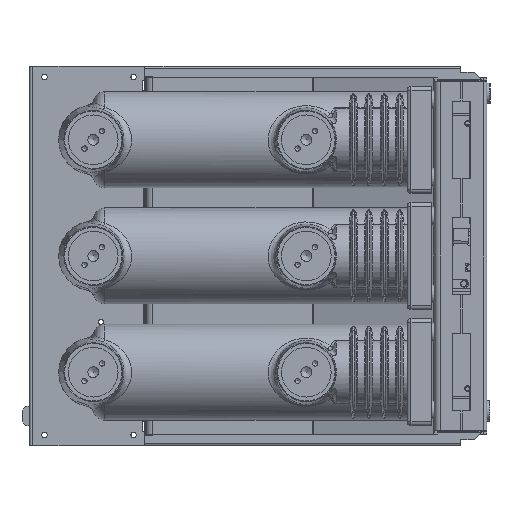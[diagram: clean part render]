
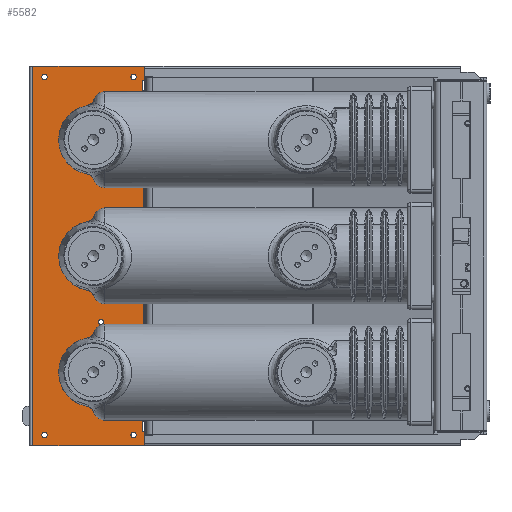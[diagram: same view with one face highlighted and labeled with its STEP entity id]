
A CAD part, left-side view. The second image highlights one B-rep face of the part: STEP entity #5582.
In plain terms, the highlighted planar face has unit normal (-1, 0, 0).
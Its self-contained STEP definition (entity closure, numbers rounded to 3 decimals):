
#5582=ADVANCED_FACE('',(#19433,#19435,#19437,#19439,#19441,#19443),#19445,.T.);
#19433=FACE_BOUND('',#19434,.T.);
#19434=EDGE_LOOP('',(#37318,#37319,#37320,#37321,#37322,#37323,#37324,#37325,#37326,
#37327,#37328,#37329));
#19435=FACE_BOUND('',#19436,.T.);
#19436=EDGE_LOOP('',(#37330));
#19437=FACE_BOUND('',#19438,.T.);
#19438=EDGE_LOOP('',(#37331));
#19439=FACE_BOUND('',#19440,.T.);
#19440=EDGE_LOOP('',(#37332));
#19441=FACE_BOUND('',#19442,.T.);
#19442=EDGE_LOOP('',(#37333));
#19443=FACE_BOUND('',#19444,.T.);
#19444=EDGE_LOOP('',(#37334));
#19445=PLANE('',#19446);
#19446=AXIS2_PLACEMENT_3D('',#19447,#19448,#19449);
#19447=CARTESIAN_POINT('',(86.781,222.749,-245.));
#19448=DIRECTION('',(-1.,0.,0.));
#19449=DIRECTION('',(0.,0.,1.));
#37318=ORIENTED_EDGE('',*,*,#43031,.T.);
#37319=ORIENTED_EDGE('',*,*,#43030,.F.);
#37320=ORIENTED_EDGE('',*,*,#43042,.T.);
#37321=ORIENTED_EDGE('',*,*,#43037,.T.);
#37322=ORIENTED_EDGE('',*,*,#43269,.T.);
#37323=ORIENTED_EDGE('',*,*,#43270,.T.);
#37324=ORIENTED_EDGE('',*,*,#43271,.T.);
#37325=ORIENTED_EDGE('',*,*,#43272,.F.);
#37326=ORIENTED_EDGE('',*,*,#43273,.T.);
#37327=ORIENTED_EDGE('',*,*,#43274,.T.);
#37328=ORIENTED_EDGE('',*,*,#43275,.T.);
#37329=ORIENTED_EDGE('',*,*,#43043,.T.);
#37330=ORIENTED_EDGE('',*,*,#43276,.F.);
#37331=ORIENTED_EDGE('',*,*,#43277,.F.);
#37332=ORIENTED_EDGE('',*,*,#43278,.F.);
#37333=ORIENTED_EDGE('',*,*,#43279,.F.);
#37334=ORIENTED_EDGE('',*,*,#43060,.F.);
#43030=EDGE_CURVE('',#47405,#47385,#47762,.T.);
#43031=EDGE_CURVE('',#47763,#47385,#47764,.T.);
#43037=EDGE_CURVE('',#47771,#47772,#47773,.T.);
#43042=EDGE_CURVE('',#47405,#47771,#47780,.T.);
#43043=EDGE_CURVE('',#47781,#47763,#47782,.T.);
#43060=EDGE_CURVE('',#47811,#47811,#47812,.T.);
#43269=EDGE_CURVE('',#47772,#48174,#48175,.T.);
#43270=EDGE_CURVE('',#48174,#48176,#48177,.T.);
#43271=EDGE_CURVE('',#48176,#48178,#48179,.T.);
#43272=EDGE_CURVE('',#48180,#48178,#48181,.T.);
#43273=EDGE_CURVE('',#48180,#48182,#48183,.T.);
#43274=EDGE_CURVE('',#48182,#48184,#48185,.T.);
#43275=EDGE_CURVE('',#48184,#47781,#48186,.T.);
#43276=EDGE_CURVE('',#48187,#48187,#48188,.T.);
#43277=EDGE_CURVE('',#48189,#48189,#48190,.T.);
#43278=EDGE_CURVE('',#48191,#48191,#48192,.T.);
#43279=EDGE_CURVE('',#48193,#48193,#48194,.T.);
#47385=VERTEX_POINT('',#56497);
#47405=VERTEX_POINT('',#56541);
#47762=LINE('',#57530,#57531);
#47763=VERTEX_POINT('',#57533);
#47764=LINE('',#57534,#57535);
#47771=VERTEX_POINT('',#57553);
#47772=VERTEX_POINT('',#57554);
#47773=LINE('',#57555,#57556);
#47780=LINE('',#57572,#57573);
#47781=VERTEX_POINT('',#57575);
#47782=LINE('',#57576,#57577);
#47811=VERTEX_POINT('',#57643);
#47812=CIRCLE('',#57644,3.2);
#48174=VERTEX_POINT('',#58506);
#48175=LINE('',#58507,#58508);
#48176=VERTEX_POINT('',#58510);
#48177=LINE('',#58511,#58512);
#48178=VERTEX_POINT('',#58514);
#48179=LINE('',#58515,#58516);
#48180=VERTEX_POINT('',#58518);
#48181=LINE('',#58519,#58520);
#48182=VERTEX_POINT('',#58522);
#48183=LINE('',#58523,#58524);
#48184=VERTEX_POINT('',#58526);
#48185=LINE('',#58527,#58528);
#48186=LINE('',#58530,#58531);
#48187=VERTEX_POINT('',#58533);
#48188=CIRCLE('',#58534,3.5);
#48189=VERTEX_POINT('',#58538);
#48190=CIRCLE('',#58539,3.5);
#48191=VERTEX_POINT('',#58543);
#48192=CIRCLE('',#58544,3.5);
#48193=VERTEX_POINT('',#58548);
#48194=CIRCLE('',#58549,3.5);
#56497=CARTESIAN_POINT('',(86.781,225.485,-213.));
#56541=CARTESIAN_POINT('',(86.781,225.485,213.));
#57530=CARTESIAN_POINT('',(86.781,225.485,213.));
#57531=VECTOR('',#57532,1.);
#57532=DIRECTION('',(0.,0.,-1.));
#57533=CARTESIAN_POINT('',(86.781,227.749,-213.));
#57534=CARTESIAN_POINT('',(86.781,227.749,-213.));
#57535=VECTOR('',#57536,1.);
#57536=DIRECTION('',(0.,-1.,0.));
#57553=CARTESIAN_POINT('',(86.781,227.749,213.));
#57554=CARTESIAN_POINT('',(86.781,227.749,227.));
#57555=CARTESIAN_POINT('',(86.781,227.749,213.));
#57556=VECTOR('',#57557,1.);
#57557=DIRECTION('',(0.,0.,1.));
#57572=CARTESIAN_POINT('',(86.781,225.485,213.));
#57573=VECTOR('',#57574,1.);
#57574=DIRECTION('',(0.,1.,0.));
#57575=CARTESIAN_POINT('',(86.781,227.749,-227.));
#57576=CARTESIAN_POINT('',(86.781,227.749,-227.));
#57577=VECTOR('',#57578,1.);
#57578=DIRECTION('',(0.,0.,1.));
#57643=CARTESIAN_POINT('',(86.781,280.749,-81.8));
#57644=AXIS2_PLACEMENT_3D('',#57645,#57646,#57647);
#57645=CARTESIAN_POINT('',(86.781,280.749,-85.));
#57646=DIRECTION('',(-1.,0.,0.));
#57647=DIRECTION('',(0.,0.,1.));
#58506=CARTESIAN_POINT('',(86.781,224.749,227.));
#58507=CARTESIAN_POINT('',(86.781,227.749,227.));
#58508=VECTOR('',#58509,1.);
#58509=DIRECTION('',(0.,-1.,0.));
#58510=CARTESIAN_POINT('',(86.781,224.749,245.));
#58511=CARTESIAN_POINT('',(86.781,224.749,227.));
#58512=VECTOR('',#58513,1.);
#58513=DIRECTION('',(0.,0.,1.));
#58514=CARTESIAN_POINT('',(86.781,370.012,245.));
#58515=CARTESIAN_POINT('',(86.781,224.749,245.));
#58516=VECTOR('',#58517,1.);
#58517=DIRECTION('',(0.,1.,0.));
#58518=CARTESIAN_POINT('',(86.781,370.012,-245.));
#58519=CARTESIAN_POINT('',(86.781,370.012,-245.));
#58520=VECTOR('',#58521,1.);
#58521=DIRECTION('',(0.,0.,1.));
#58522=CARTESIAN_POINT('',(86.781,224.749,-245.));
#58523=CARTESIAN_POINT('',(86.781,370.012,-245.));
#58524=VECTOR('',#58525,1.);
#58525=DIRECTION('',(0.,-1.,0.));
#58526=CARTESIAN_POINT('',(86.781,224.749,-227.));
#58527=CARTESIAN_POINT('',(86.781,224.749,-245.));
#58528=VECTOR('',#58529,1.);
#58529=DIRECTION('',(0.,0.,1.));
#58530=CARTESIAN_POINT('',(86.781,224.749,-227.));
#58531=VECTOR('',#58532,1.);
#58532=DIRECTION('',(0.,1.,0.));
#58533=CARTESIAN_POINT('',(86.781,238.749,-227.5));
#58534=AXIS2_PLACEMENT_3D('',#58535,#58536,#58537);
#58535=CARTESIAN_POINT('',(86.781,238.749,-231.));
#58536=DIRECTION('',(-1.,0.,0.));
#58537=DIRECTION('',(0.,0.,1.));
#58538=CARTESIAN_POINT('',(86.781,238.749,234.5));
#58539=AXIS2_PLACEMENT_3D('',#58540,#58541,#58542);
#58540=CARTESIAN_POINT('',(86.781,238.749,231.));
#58541=DIRECTION('',(-1.,0.,0.));
#58542=DIRECTION('',(0.,0.,1.));
#58543=CARTESIAN_POINT('',(86.781,353.749,234.5));
#58544=AXIS2_PLACEMENT_3D('',#58545,#58546,#58547);
#58545=CARTESIAN_POINT('',(86.781,353.749,231.));
#58546=DIRECTION('',(-1.,0.,0.));
#58547=DIRECTION('',(0.,0.,1.));
#58548=CARTESIAN_POINT('',(86.781,353.749,-227.5));
#58549=AXIS2_PLACEMENT_3D('',#58550,#58551,#58552);
#58550=CARTESIAN_POINT('',(86.781,353.749,-231.));
#58551=DIRECTION('',(-1.,0.,0.));
#58552=DIRECTION('',(0.,0.,1.));
